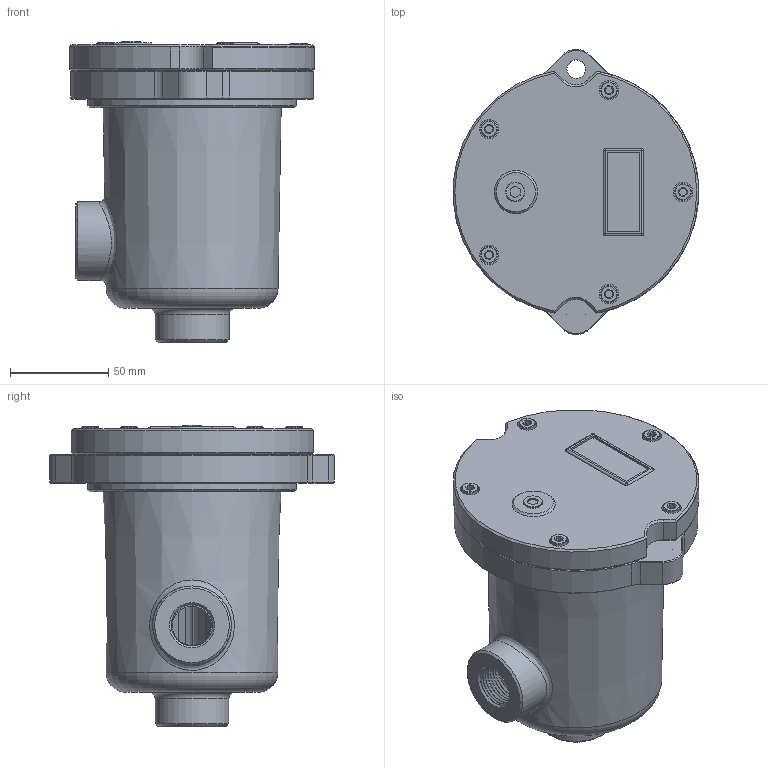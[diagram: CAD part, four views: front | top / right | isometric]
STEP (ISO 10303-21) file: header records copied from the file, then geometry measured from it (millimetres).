
FILE_DESCRIPTION(('FreeCAD Model'),'2;1');
FILE_NAME('Z:/RP Tech/Disegni/Archivio Disegni/18-HOUSING/SFR60.step', '2020-11-27T10:49:36',('Passoni C.'),('RP Tech s.r.l.'), 'Open CASCADE STEP processor 7.3','FreeCAD','Unknown');
FILE_SCHEMA(('AUTOMOTIVE_DESIGN { 1 0 10303 214 1 1 1 1 }'));
Length unit declared in the file: millimetre
Products named in the file (1): Fusion003
Bounding box: 124.77 x 144.92 x 153.25 mm (x, y, z)
Volume: 33106.3 mm3; surface area: 407854.4 mm2
Topology: 10 solids, 11 shells, 2267 faces, 6058 edges, 3846 vertices
Faces by surface type: plane 1523, cylinder 289, bspline 279, cone 94, torus 70, sphere 12
Full cylindrical faces by diameter (mm): 0.1 x1, 1 x1, 5 x5, 6.5 x5, 8.5 x5, 9.416 x3, 9.85 x2, 16.504 x1, 18 x1, 20 x1, 21 x9, 23.549 x1, 27.5 x1, 27.564 x1, 28.5 x2, 29.7 x1, 30 x1, 34 x1, 35.2 x1, 37.604 x1, 38 x1, 40 x1, 52.5 x2, 68.8 x2, 69 x1, 70 x2, 78 x1, 82 x1, 90 x1, 98 x1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
Entity records: 218003 total; most frequent: CARTESIAN_POINT 93541, DIRECTION 15780, ORIENTED_EDGE 12086, PCURVE 12082, DEFINITIONAL_REPRESENTATION 12082, LINE 9137, VECTOR 9137, B_SPLINE_CURVE_WITH_KNOTS 7255
